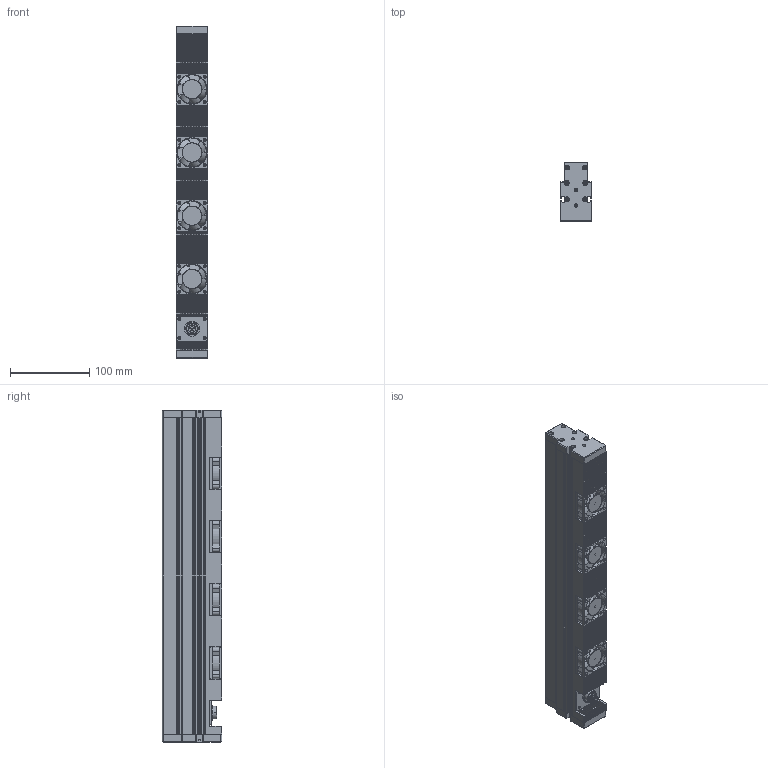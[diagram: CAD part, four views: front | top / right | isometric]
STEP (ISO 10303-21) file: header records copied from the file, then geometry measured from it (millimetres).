
FILE_DESCRIPTION (( 'STEP AP203' ), '1' );
FILE_NAME ('PPX-LS420S-W.STEP', '2022-09-22T01:40:37', ( 'Windows 蚚誧' ), ( 'Microsoft' ), 'SwSTEP 2.0', 'SolidWorks 2016', '' );
FILE_SCHEMA (( 'CONFIG_CONTROL_DESIGN' ));
Products named in the file (2): PPX-LS420S-W
Bounding box: 40 x 75 x 420 mm (x, y, z)
Surface area: 428350.1 mm2 (no closed solid volume)
Topology: 0 solids, 20 shells, 1615 faces, 4501 edges, 2942 vertices
Faces by surface type: plane 744, cylinder 665, bspline 148, cone 54, torus 4
Entity records: 61769 total; most frequent: CARTESIAN_POINT 20441, ORIENTED_EDGE 8898, DIRECTION 8295, EDGE_CURVE 4461, VERTEX_POINT 2942, AXIS2_PLACEMENT_3D 2870, VECTOR 2555, LINE 2555
